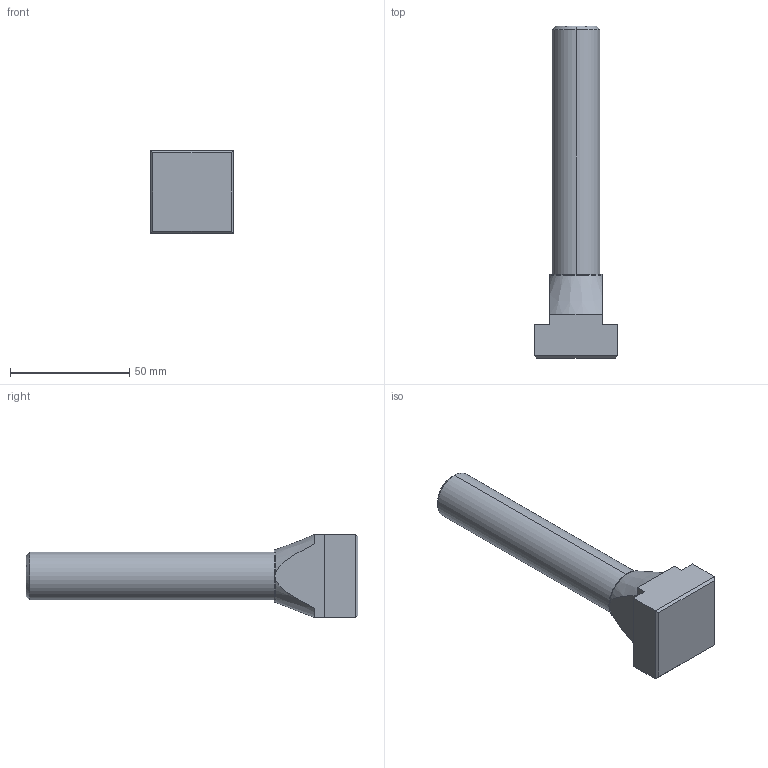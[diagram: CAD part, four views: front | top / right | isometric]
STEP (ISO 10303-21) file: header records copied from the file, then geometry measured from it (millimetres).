
FILE_DESCRIPTION (( 'STEP AP203' ), '1' );
FILE_NAME ('Wiberger-din787_22-m20x125.step', '2016-07-01T13:16:46', ( 'Magnus' ), ( 'Microsoft' ), 'SwSTEP 2.0', 'SolidWorks 2016', '' );
FILE_SCHEMA (( 'CONFIG_CONTROL_DESIGN' ));
Length unit declared in the file: millimetre
Products named in the file (1): Wiberger-din787_22-m20x125
Bounding box: 35 x 139 x 35 mm (x, y, z)
Volume: 62145.1 mm3; surface area: 12451.8 mm2
Topology: 1 solids, 1 shells, 27 faces, 66 edges, 42 vertices
Faces by surface type: plane 17, cone 5, cylinder 5
Entity records: 941 total; most frequent: CARTESIAN_POINT 228, ORIENTED_EDGE 132, DIRECTION 130, EDGE_CURVE 66, AXIS2_PLACEMENT_3D 44, VERTEX_POINT 42, LINE 42, VECTOR 42
